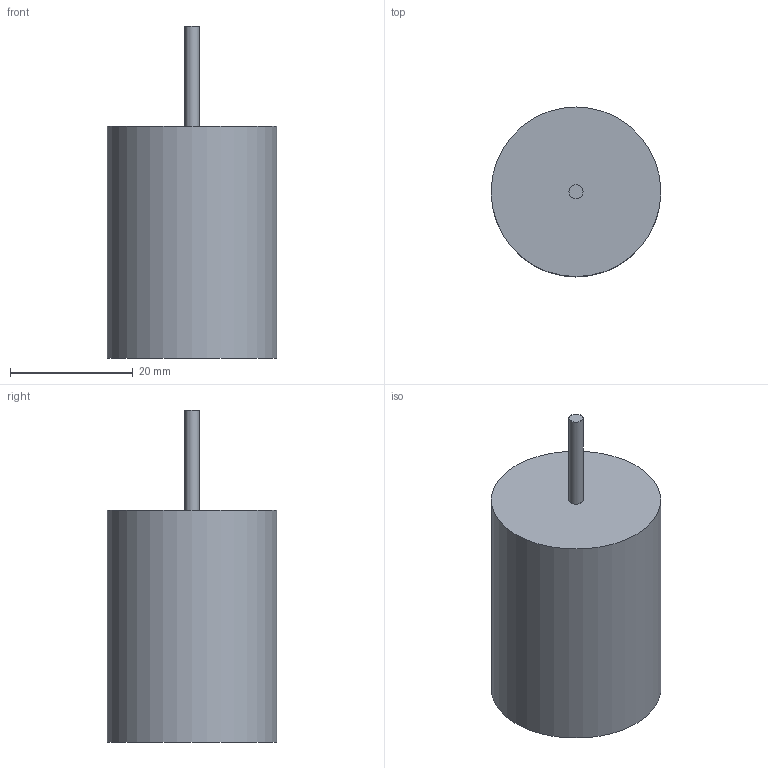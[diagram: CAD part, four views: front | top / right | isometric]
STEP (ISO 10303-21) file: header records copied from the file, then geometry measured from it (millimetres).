
FILE_DESCRIPTION(/* description */ (''),/* implementation_level */ '2;1');
FILE_NAME(/* name */ 'C:\Users\Sergio\Desktop\Modelo\\Motor_ipt_14d4aa97.STEP',/* time_stamp */ '2021-06-15T09:34:23+02:00',/* author */ ('Sergio'),/* organization */ (''),/* preprocessor_version */ 'ST-DEVELOPER v18',/* originating_system */ 'Autodesk Inventor 2020',/* authorisation */ '');
FILE_SCHEMA (('AUTOMOTIVE_DESIGN { 1 0 10303 214 3 1 1 }'));
Length unit declared in the file: millimetre
Products named in the file (1): Motor
Bounding box: 27.7 x 27.7 x 54.2 mm (x, y, z)
Volume: 22847.5 mm3; surface area: 4613.2 mm2
Topology: 1 solids, 1 shells, 5 faces, 10 edges, 8 vertices
Faces by surface type: plane 3, cylinder 2
Full cylindrical faces by diameter (mm): 2.3 x1, 27.7 x1
Entity records: 183 total; most frequent: DIRECTION 30, CARTESIAN_POINT 24, ORIENTED_EDGE 20, AXIS2_PLACEMENT_3D 14, EDGE_CURVE 10, CIRCLE 8, VERTEX_POINT 8, EDGE_LOOP 6
